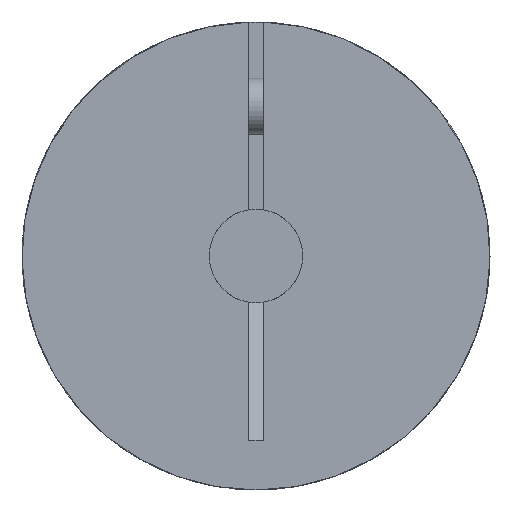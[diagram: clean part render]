
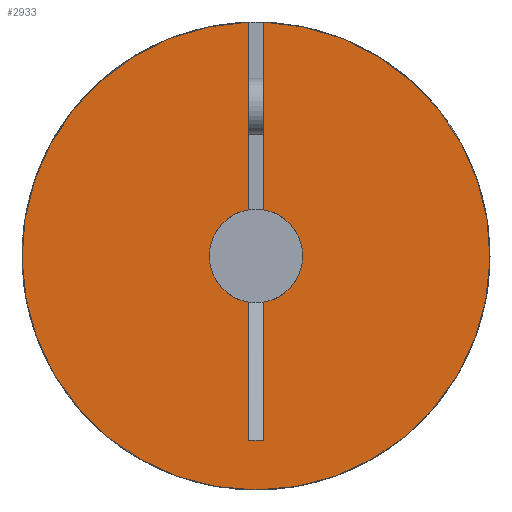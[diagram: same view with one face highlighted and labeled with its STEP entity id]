
A CAD part, left-side view. The second image highlights one B-rep face of the part: STEP entity #2933.
In plain terms, the highlighted planar face has unit normal (-1, 0, 0) as drawn and (0, 0, -1) by its records, which use the part's own axes.
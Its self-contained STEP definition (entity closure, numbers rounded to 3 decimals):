
#22 = ORIENTED_EDGE ( 'NONE', *, *, #658, .F. ) ;
#26 = DIRECTION ( 'NONE',  ( 1., 0., 0. ) ) ;
#50 = VERTEX_POINT ( 'NONE', #3082 ) ;
#109 = VERTEX_POINT ( 'NONE', #3693 ) ;
#171 = VERTEX_POINT ( 'NONE', #2817 ) ;
#176 = AXIS2_PLACEMENT_3D ( 'NONE', #1563, #2710, #2137 ) ;
#185 = DIRECTION ( 'NONE',  ( 0., 0., 1. ) ) ;
#219 = DIRECTION ( 'NONE',  ( 0., 0., -1. ) ) ;
#281 = ORIENTED_EDGE ( 'NONE', *, *, #1136, .T. ) ;
#334 = LINE ( 'NONE', #2256, #3244 ) ;
#351 = LINE ( 'NONE', #3474, #1503 ) ;
#493 = EDGE_LOOP ( 'NONE', ( #22, #1789, #1252, #992, #694, #2575, #281, #2049, #1029 ) ) ;
#589 = PLANE ( 'NONE',  #3601 ) ;
#658 = EDGE_CURVE ( 'NONE', #1237, #2818, #334, .T. ) ;
#694 = ORIENTED_EDGE ( 'NONE', *, *, #972, .T. ) ;
#744 = LINE ( 'NONE', #3582, #1525 ) ;
#875 = DIRECTION ( 'NONE',  ( 0., 0., 1. ) ) ;
#922 = DIRECTION ( 'NONE',  ( -1., 0., 0. ) ) ;
#972 = EDGE_CURVE ( 'NONE', #2864, #3024, #3494, .T. ) ;
#992 = ORIENTED_EDGE ( 'NONE', *, *, #2157, .T. ) ;
#1029 = ORIENTED_EDGE ( 'NONE', *, *, #1966, .F. ) ;
#1136 = EDGE_CURVE ( 'NONE', #2806, #171, #744, .T. ) ;
#1148 = CARTESIAN_POINT ( 'NONE',  ( 2.468, 0.4, 0. ) ) ;
#1153 = VECTOR ( 'NONE', #922, 1000. ) ;
#1237 = VERTEX_POINT ( 'NONE', #1322 ) ;
#1252 = ORIENTED_EDGE ( 'NONE', *, *, #2657, .F. ) ;
#1322 = CARTESIAN_POINT ( 'NONE',  ( -2.468, -0.4, 0. ) ) ;
#1327 = DIRECTION ( 'NONE',  ( 1., 0., 0. ) ) ;
#1379 = CARTESIAN_POINT ( 'NONE',  ( 0., 0., 0. ) ) ;
#1419 = FACE_OUTER_BOUND ( 'NONE', #493, .T. ) ;
#1503 = VECTOR ( 'NONE', #1794, 1000. ) ;
#1525 = VECTOR ( 'NONE', #3604, 1000. ) ;
#1563 = CARTESIAN_POINT ( 'NONE',  ( 0., 0., 0. ) ) ;
#1579 = DIRECTION ( 'NONE',  ( -1., 0., 0. ) ) ;
#1597 = CARTESIAN_POINT ( 'NONE',  ( 0., 0., 0. ) ) ;
#1621 = CIRCLE ( 'NONE', #3287, 2.5 ) ;
#1789 = ORIENTED_EDGE ( 'NONE', *, *, #2359, .F. ) ;
#1794 = DIRECTION ( 'NONE',  ( -1., 0., 0. ) ) ;
#1919 = LINE ( 'NONE', #2805, #2641 ) ;
#1966 = EDGE_CURVE ( 'NONE', #2818, #109, #2939, .T. ) ;
#2049 = ORIENTED_EDGE ( 'NONE', *, *, #2366, .F. ) ;
#2072 = VERTEX_POINT ( 'NONE', #2444 ) ;
#2104 = AXIS2_PLACEMENT_3D ( 'NONE', #2533, #185, #1327 ) ;
#2137 = DIRECTION ( 'NONE',  ( 1., 0., 0. ) ) ;
#2157 = EDGE_CURVE ( 'NONE', #2072, #2864, #1919, .T. ) ;
#2235 = CARTESIAN_POINT ( 'NONE',  ( -2.468, 0.4, 0. ) ) ;
#2256 = CARTESIAN_POINT ( 'NONE',  ( -12.5, -0.4, 0. ) ) ;
#2302 = AXIS2_PLACEMENT_3D ( 'NONE', #1597, #2388, #1579 ) ;
#2359 = EDGE_CURVE ( 'NONE', #50, #1237, #1621, .T. ) ;
#2366 = EDGE_CURVE ( 'NONE', #109, #171, #3111, .T. ) ;
#2388 = DIRECTION ( 'NONE',  ( 0., 0., -1. ) ) ;
#2444 = CARTESIAN_POINT ( 'NONE',  ( 9.843, -0.4, 0. ) ) ;
#2463 = DIRECTION ( 'NONE',  ( 0., 1., 0. ) ) ;
#2533 = CARTESIAN_POINT ( 'NONE',  ( 0., 0., 0. ) ) ;
#2554 = DIRECTION ( 'NONE',  ( -1., 0., 0. ) ) ;
#2575 = ORIENTED_EDGE ( 'NONE', *, *, #3633, .F. ) ;
#2641 = VECTOR ( 'NONE', #2463, 1000. ) ;
#2657 = EDGE_CURVE ( 'NONE', #2072, #50, #351, .T. ) ;
#2710 = DIRECTION ( 'NONE',  ( 0., 0., 1. ) ) ;
#2761 = DIRECTION ( 'NONE',  ( -1., 0., 0. ) ) ;
#2805 = CARTESIAN_POINT ( 'NONE',  ( 9.843, -0.4, 0. ) ) ;
#2806 = VERTEX_POINT ( 'NONE', #2235 ) ;
#2817 = CARTESIAN_POINT ( 'NONE',  ( -12.494, 0.4, 0. ) ) ;
#2818 = VERTEX_POINT ( 'NONE', #3322 ) ;
#2864 = VERTEX_POINT ( 'NONE', #3067 ) ;
#2933 = ADVANCED_FACE ( 'NONE', ( #1419 ), #589, .F. ) ;
#2939 = CIRCLE ( 'NONE', #176, 12.5 ) ;
#3024 = VERTEX_POINT ( 'NONE', #1148 ) ;
#3067 = CARTESIAN_POINT ( 'NONE',  ( 9.843, 0.4, 0. ) ) ;
#3082 = CARTESIAN_POINT ( 'NONE',  ( 2.468, -0.4, 0. ) ) ;
#3111 = CIRCLE ( 'NONE', #2104, 12.5 ) ;
#3127 = CIRCLE ( 'NONE', #2302, 2.5 ) ;
#3244 = VECTOR ( 'NONE', #2554, 1000. ) ;
#3287 = AXIS2_PLACEMENT_3D ( 'NONE', #1379, #219, #2761 ) ;
#3322 = CARTESIAN_POINT ( 'NONE',  ( -12.494, -0.4, 0. ) ) ;
#3378 = CARTESIAN_POINT ( 'NONE',  ( 0., 0., 0. ) ) ;
#3473 = CARTESIAN_POINT ( 'NONE',  ( -12.5, 0.4, 0. ) ) ;
#3474 = CARTESIAN_POINT ( 'NONE',  ( -12.5, -0.4, 0. ) ) ;
#3494 = LINE ( 'NONE', #3473, #1153 ) ;
#3582 = CARTESIAN_POINT ( 'NONE',  ( -12.5, 0.4, 0. ) ) ;
#3601 = AXIS2_PLACEMENT_3D ( 'NONE', #3378, #875, #26 ) ;
#3604 = DIRECTION ( 'NONE',  ( -1., 0., 0. ) ) ;
#3633 = EDGE_CURVE ( 'NONE', #2806, #3024, #3127, .T. ) ;
#3693 = CARTESIAN_POINT ( 'NONE',  ( 12.5, 0., 0. ) ) ;
